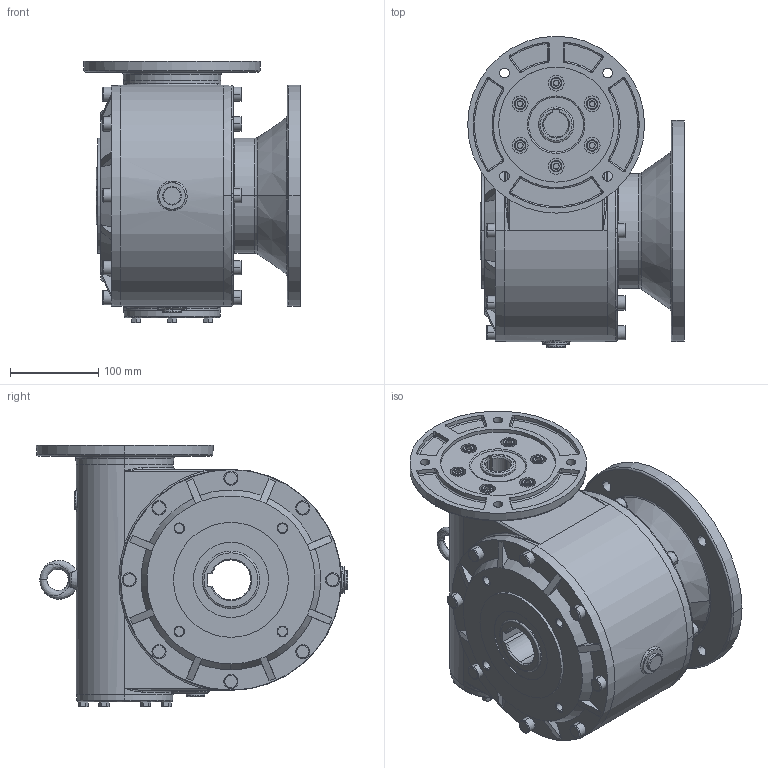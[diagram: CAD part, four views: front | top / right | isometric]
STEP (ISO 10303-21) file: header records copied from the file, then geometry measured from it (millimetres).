
FILE_DESCRIPTION (( 'STEP AP214' ), '1' );
FILE_NAME ('Sestava MRT120-FF-R.STEP', '2007-07-09T07:26:17', ( '' ), ( '' ), 'SwSTEP 2.0', 'SolidWorks 2004146', '' );
FILE_SCHEMA (( 'AUTOMOTIVE_DESIGN' ));
Length unit declared in the file: millimetre
Products named in the file (8): Pøíruba FT_Výchozí; Skøíò120_Výchozí; Pøíruba MRT120 kulatá _130-165-188; Pøíruba 120 FF_Výchozí; N021143_Šroub s vnitøním šestihranem DIN 912 - M8 x 25; A18151M_ANSI B18.15.1M Závìsný šroub M10; Víèko_Výchozí; Sestava MRT120-FF-R
Assembly tree (12 placements, depth 2):
  Sestava MRT120-FF-R
    Víèko_Výchozí
    Skøíò120_Výchozí
    N021143_Šroub s vnitøním šestihranem DIN 912 - M8 x 25  x6
    Pøíruba MRT120 kulatá _130-165-188
    Pøíruba 120 FF_Výchozí
    Pøíruba FT_Výchozí
    A18151M_ANSI B18.15.1M Závìsný šroub M10
Bounding box: 245 x 352 x 295.3 mm (x, y, z)
Volume: 10076325.4 mm3; surface area: 741592.3 mm2
Topology: 12 solids, 12 shells, 718 faces, 1604 edges, 952 vertices
Faces by surface type: plane 210, cylinder 185, torus 149, cone 142, bspline 30, sphere 2
Entity records: 41453 total; most frequent: CARTESIAN_POINT 27327, DIRECTION 3169, ORIENTED_EDGE 2708, AXIS2_PLACEMENT_3D 1360, EDGE_CURVE 1354, VERTEX_POINT 822, CIRCLE 787, EDGE_LOOP 676
